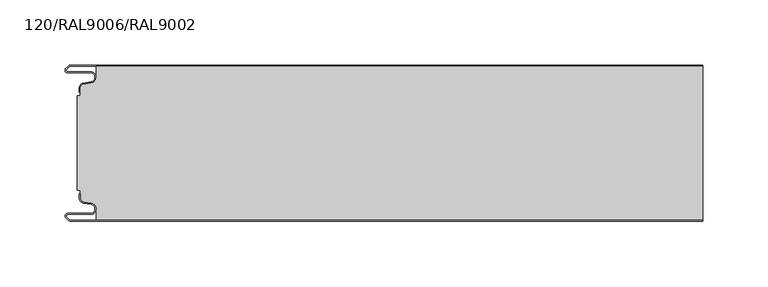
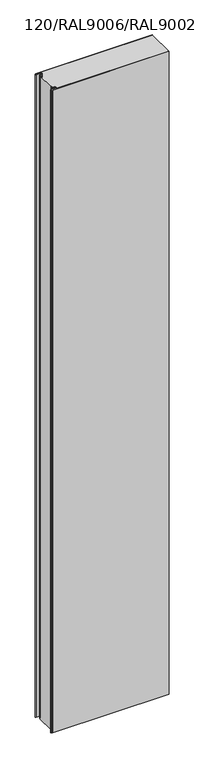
"""IFC4 building model written with IfcOpenShell, lengths in millimetres: plate geometry, TR_C_V_FTV_Panel_cut_GROOVE : 120/RAL9006/RAL9002."""

from ifc_helpers import new_model, si_unit, point, frame_2d, origin, origin_with_axes, place, context, project, spatial, polyline, circle_curve, trimmed, segment, composite_curve, outline, extrude, source, transform, mapped, element, save


def plate_120_ral9006_ral9002_f31704ba(model_context):
    return source(origin(), model_context, "Body", "SweptSolid", [
        extrude(outline(composite_curve([segment(trimmed(circle_curve(frame_2d((-245.4186278, -117.25)), 2.75), [point((-245.4186278, -120.0))], [point((-247.3631715, -119.1945436))], False, "CARTESIAN"), True, "CONTINUOUS"), segment(polyline([(-247.3631715, -119.1945436), (-249.2288569, -117.3288582)]), True, "CONTINUOUS"), segment(trimmed(circle_curve(frame_2d((-247.8499987, -115.95)), 1.95), [point((-249.2288569, -117.3288582))], [point((-247.8499987, -114.0))], False, "CARTESIAN"), True, "CONTINUOUS"), segment(polyline([(-247.8499987, -114.0), (-230.2499987, -114.0)]), True, "CONTINUOUS"), segment(trimmed(circle_curve(frame_2d((-230.2499987, -110.55)), 3.45), [point((-230.2499987, -114.0))], [point((-229.6509125, -107.1524133))], True, "CARTESIAN"), True, "CONTINUOUS"), segment(polyline([(-229.6509125, -107.1524133), (-235.7011793, -106.085588)]), True, "CONTINUOUS"), segment(trimmed(circle_curve(frame_2d((-235.0499987, -102.3925589)), 3.75), [point((-235.7011793, -106.085588))], [point((-238.7999987, -102.3925589))], False, "CARTESIAN"), True, "CONTINUOUS"), segment(polyline([(-238.7999987, -102.3925589), (-238.7999987, -99.0), (-237.9999987, -99.0), (-237.9999987, -102.3925589)]), True, "CONTINUOUS"), segment(trimmed(circle_curve(frame_2d((-235.0499987, -102.3925589)), 2.95), [point((-237.9999987, -102.3925589))], [point((-235.5622608, -105.2977418))], True, "CARTESIAN"), True, "CONTINUOUS"), segment(polyline([(-235.5622608, -105.2977418), (-229.5119939, -106.364567)]), True, "CONTINUOUS"), segment(trimmed(circle_curve(frame_2d((-230.2499987, -110.55)), 4.25), [point((-229.5119939, -106.364567))], [point((-230.2499987, -114.8))], False, "CARTESIAN"), True, "CONTINUOUS"), segment(polyline([(-230.2499987, -114.8), (-247.8499987, -114.8)]), True, "CONTINUOUS"), segment(trimmed(circle_curve(frame_2d((-247.8499987, -115.95)), 1.15), [point((-247.8499987, -114.8))], [point((-248.6631715, -116.7631728))], True, "CARTESIAN"), True, "CONTINUOUS"), segment(polyline([(-248.6631715, -116.7631728), (-246.7974861, -118.6288582)]), True, "CONTINUOUS"), segment(trimmed(circle_curve(frame_2d((-245.4186278, -117.25)), 1.95), [point((-246.7974861, -118.6288582))], [point((-245.4186278, -119.2))], True, "CARTESIAN"), True, "CONTINUOUS"), segment(polyline([(-245.4186278, -119.2), (240.3999998, -119.2), (240.3999998, -120.0), (-245.4186278, -120.0)]), True, "CONTINUOUS")], self_intersect=False)), origin_with_axes(), (0.0, 0.0, 1.0), 2830.0),
        extrude(outline(composite_curve([segment(polyline([(-240.3999987, -23.7), (-237.9999987, -23.7), (-237.9999987, -17.6074411)]), True, "CONTINUOUS"), segment(trimmed(circle_curve(frame_2d((-235.0499987, -17.6074411)), 2.95), [point((-237.9999987, -17.6074411))], [point((-235.5622608, -14.7022582))], False, "CARTESIAN"), True, "CONTINUOUS"), segment(polyline([(-235.5622608, -14.7022582), (-229.5119939, -13.635433)]), True, "CONTINUOUS"), segment(trimmed(circle_curve(frame_2d((-230.2499987, -9.45)), 4.25), [point((-229.5119939, -13.635433))], [point((-225.9999987, -9.45))], True, "CARTESIAN"), True, "CONTINUOUS"), segment(polyline([(-225.9999987, -9.45), (-225.9999987, -0.8), (240.3999998, -0.8), (240.3999998, -119.2), (-225.9999987, -119.2), (-225.9999987, -110.55)]), True, "CONTINUOUS"), segment(trimmed(circle_curve(frame_2d((-230.2499987, -110.55)), 4.25), [point((-225.9999987, -110.55))], [point((-229.5119939, -106.364567))], True, "CARTESIAN"), True, "CONTINUOUS"), segment(polyline([(-229.5119939, -106.364567), (-235.5622608, -105.2977418)]), True, "CONTINUOUS"), segment(trimmed(circle_curve(frame_2d((-235.0499987, -102.3925589)), 2.95), [point((-235.5622608, -105.2977418))], [point((-237.9999987, -102.3925589))], False, "CARTESIAN"), True, "CONTINUOUS"), segment(polyline([(-237.9999987, -102.3925589), (-237.9999987, -96.3), (-240.3999987, -96.3), (-240.3999987, -23.7)]), True, "CONTINUOUS")], self_intersect=False)), origin_with_axes(), (0.0, 0.0, 1.0), 2830.0),
        extrude(outline(composite_curve([segment(trimmed(circle_curve(frame_2d((-245.4186278, -2.75)), 1.95), [point((-245.4186278, -0.8))], [point((-246.7974861, -1.3711418))], True, "CARTESIAN"), True, "CONTINUOUS"), segment(polyline([(-246.7974861, -1.3711418), (-248.6631715, -3.2368272)]), True, "CONTINUOUS"), segment(trimmed(circle_curve(frame_2d((-247.8499987, -4.05)), 1.15), [point((-248.6631715, -3.2368272))], [point((-247.8499987, -5.2))], True, "CARTESIAN"), True, "CONTINUOUS"), segment(polyline([(-247.8499987, -5.2), (-230.2499987, -5.2)]), True, "CONTINUOUS"), segment(trimmed(circle_curve(frame_2d((-230.2499987, -9.45)), 4.25), [point((-230.2499987, -5.2))], [point((-229.5119939, -13.635433))], False, "CARTESIAN"), True, "CONTINUOUS"), segment(polyline([(-229.5119939, -13.635433), (-235.5622608, -14.7022582)]), True, "CONTINUOUS"), segment(trimmed(circle_curve(frame_2d((-235.0499987, -17.6074411)), 2.95), [point((-235.5622608, -14.7022582))], [point((-237.9999987, -17.6074411))], True, "CARTESIAN"), True, "CONTINUOUS"), segment(polyline([(-237.9999987, -17.6074411), (-237.9999987, -21.0), (-238.7999987, -21.0), (-238.7999987, -17.6074411)]), True, "CONTINUOUS"), segment(trimmed(circle_curve(frame_2d((-235.0499987, -17.6074411)), 3.75), [point((-238.7999987, -17.6074411))], [point((-235.7011793, -13.914412))], False, "CARTESIAN"), True, "CONTINUOUS"), segment(polyline([(-235.7011793, -13.914412), (-229.6509125, -12.8475867)]), True, "CONTINUOUS"), segment(trimmed(circle_curve(frame_2d((-230.2499987, -9.45)), 3.45), [point((-229.6509125, -12.8475867))], [point((-230.2499987, -6.0))], True, "CARTESIAN"), True, "CONTINUOUS"), segment(polyline([(-230.2499987, -6.0), (-247.8499987, -6.0)]), True, "CONTINUOUS"), segment(trimmed(circle_curve(frame_2d((-247.8499987, -4.05)), 1.95), [point((-247.8499987, -6.0))], [point((-249.2288569, -2.6711418))], False, "CARTESIAN"), True, "CONTINUOUS"), segment(polyline([(-249.2288569, -2.6711418), (-247.3631715, -0.8054564)]), True, "CONTINUOUS"), segment(trimmed(circle_curve(frame_2d((-245.4186278, -2.75)), 2.75), [point((-247.3631715, -0.8054564))], [point((-245.4186278, 0.0))], False, "CARTESIAN"), True, "CONTINUOUS"), segment(polyline([(-245.4186278, 0.0), (240.3999998, 0.0), (240.3999998, -0.8), (-245.4186278, -0.8)]), True, "CONTINUOUS")], self_intersect=False)), origin_with_axes(), (0.0, 0.0, 1.0), 2830.0),
    ])


if __name__ == "__main__":
    model = new_model("IFC4")
    model_context = context("Model", 3, world=origin())
    ifc_project = project(units=[si_unit("LENGTHUNIT", "METRE", prefix="MILLI")], contexts=[model_context])
    site = spatial("IfcSite", under=ifc_project)
    building = spatial("IfcBuilding", under=site)
    placement = place(None, origin())
    plate_120_ral9006_ral9002_shape = plate_120_ral9006_ral9002_f31704ba(model_context)
    element("IfcPlate", 1, ObjectType="TR_C_V_FTV_Panel_cut_GROOVE : 120/RAL9006/RAL9002", at=placement, inside=building, context=model_context, shape_type="MappedRepresentation", body=[
        mapped(plate_120_ral9006_ral9002_shape, transform((0.0, 0.0, 0.0), x_axis=(1.0, 0.0, 0.0), y_axis=(0.0, 1.0, 0.0), z_axis=(0.0, 0.0, 1.0))),
    ])
    save(model, "model.ifc")
